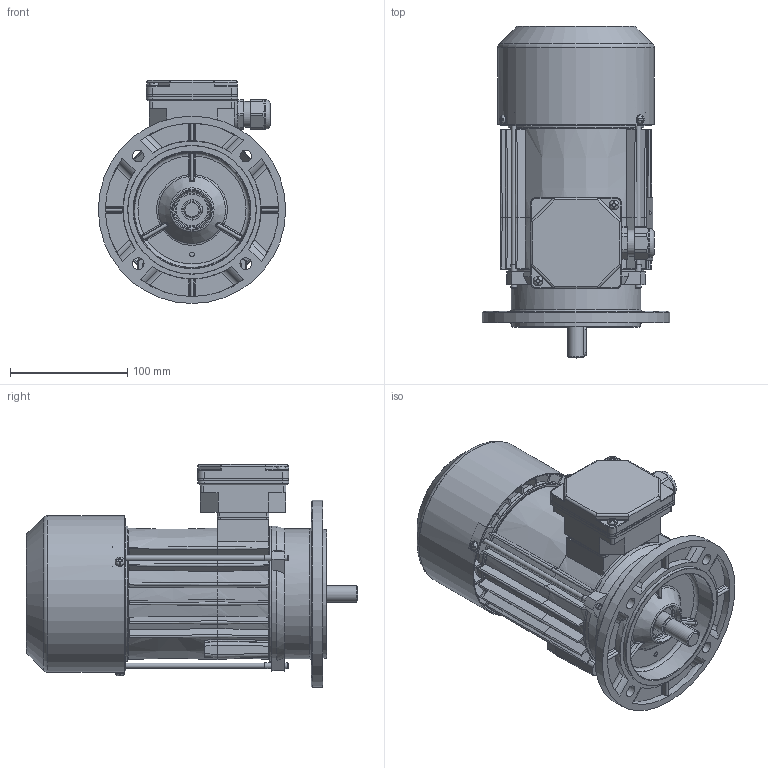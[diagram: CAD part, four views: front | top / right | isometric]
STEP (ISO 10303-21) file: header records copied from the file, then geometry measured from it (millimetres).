
FILE_DESCRIPTION(/* description */ ('Unknown'),/* implementation_level */ '2;1');
FILE_NAME(/* name */ '3SIEK71-8B',/* time_stamp */ '2021-02-03T14:51:39+01:00',/* author */ ('Unknown'),/* organization */ ('Unknown'),/* preprocessor_version */ 'ST-DEVELOPER v16.7',/* originating_system */ 'Solid Edge',/* authorisation */ 'Unknown');
FILE_SCHEMA (('AUTOMOTIVE_DESIGN {1 0 10303 214 3 1 1}'));
Products named in the file (1): 3SIEK71-8B
Bounding box: 160 x 283.48 x 190.5 mm (x, y, z)
Volume: 742825.5 mm3; surface area: 439899.5 mm2
Topology: 2 solids, 2 shells, 2379 faces, 6435 edges, 4079 vertices
Faces by surface type: plane 973, cylinder 674, bspline 375, torus 181, cone 152, sphere 24
Full cylindrical faces by diameter (mm): 2 x2, 2.4 x2, 3.7 x4, 3.8 x4, 4 x3, 4.4 x3, 4.8 x2, 5 x8, 5.1 x3, 5.5 x3, 7 x1, 8 x6, 10 x4, 13.599 x1, 13.999 x1, 15.898 x1, 16.098 x1, 16.498 x1, 16.998 x2, 17.4 x2, 21.998 x2, 22.3 x1, 22.498 x1, 22.648 x1, 22.998 x1, 23.048 x1, 24.496 x4, 25 x1, 27 x1, 28 x1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
Entity records: 98766 total; most frequent: CARTESIAN_POINT 26499, ORIENTED_EDGE 12156, DIRECTION 10687, EDGE_CURVE 6078, AXIS2_PLACEMENT_3D 4063, VERTEX_POINT 3957, EDGE_LOOP 2795, FACE_BOUND 2795
